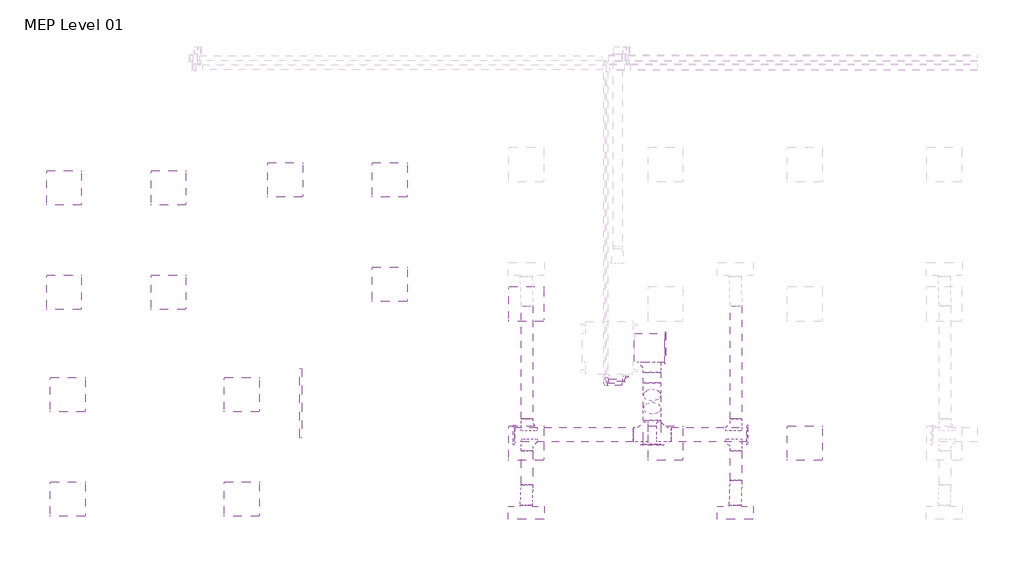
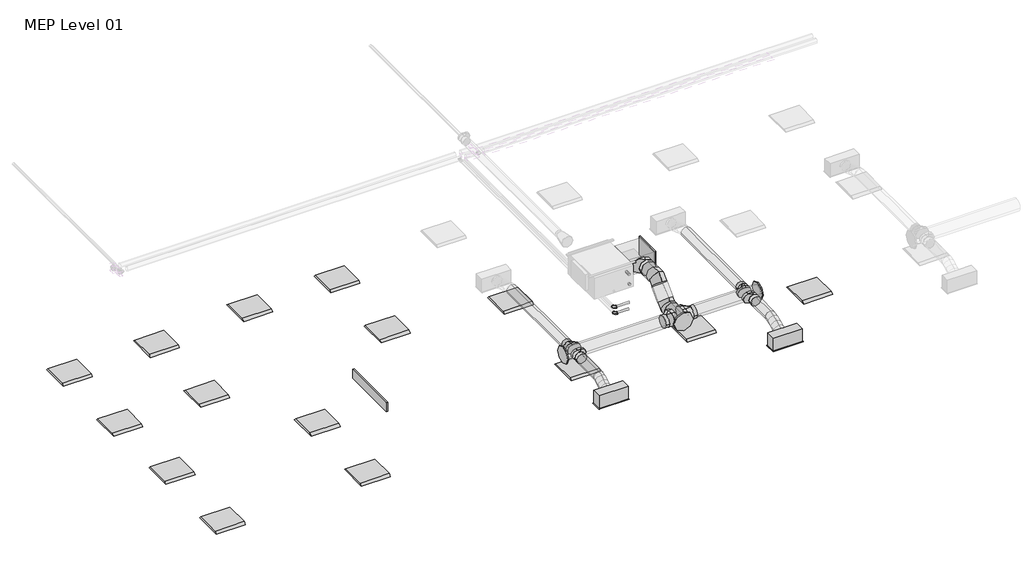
# One storey, part 1 of 29: 16 light fixtures, 13 duct fittings, 12 duct segments, 4 pipe segments, 2 air terminals, 2 pipe fittings.
"""IFC4 building model written with IfcOpenShell, lengths in millimetres."""

from ifc_helpers import new_model, si_unit, point, frame, frame_2d, origin, place, context, project, spatial, polyline, circle_curve, ellipse_curve, trimmed, segment, composite_curve, outline, extrude, transform, mapped, element, save
from ifc_brep_helpers import plane_surface, cylinder_surface, advanced_brep
from components import supply_diffuser_with_plenum_linear_slot_hosted_8c379eed, dw144_rectangular_blank_end_standard_8fde7d16, dw144_round_blank_end_standard_f82b0856, dw144_round_blank_end_standard_9aa061e7, dw144_round_segmented_bend_slip_joint_standard_8b80c5ae, dw144_round_shoe_branch_slip_joint_standard_15a2edd8, dw144_round_shoe_branch_slip_joint_standard_559552f4, dw144_round_shoe_branch_slip_joint_standard_7ba9e4ed, dw144_round_shoe_branch_slip_joint_standard_67b64720, light_fixture_600x600_230_1c7c1157, light_fixture_600x600_230_b730b5ca, plain_surface_lighting_fixture_200x1200_230_64c2163c, elbow_threaded_gmi_standard_b4aa7741

model = new_model("IFC4")

# Units and contexts
model_context = context("Model", 3, world=origin())
ifc_project = project(units=[si_unit("LENGTHUNIT", "METRE", prefix="MILLI")], contexts=[model_context])

# Site, building, storey
site = spatial("IfcSite", under=ifc_project)
building = spatial("IfcBuilding", under=site)
storey = spatial("IfcBuildingStorey", under=building, Name="MEP Level 01", Elevation=3900.0)

# Air terminals
placement = place(None, origin())
supply_diffuser_with_plenum_linear_slot_hosted_shape = supply_diffuser_with_plenum_linear_slot_hosted_8c379eed(model_context)
element("IfcAirTerminal", 1, ObjectType="Supply Diffuser with Plenum - Linear Slot - Hosted : 600mmx193.8mm-200 In Inlet  4-Slot", at=placement, inside=storey, context=model_context, shape_type="MappedRepresentation", body=[
    mapped(supply_diffuser_with_plenum_linear_slot_hosted_shape, transform((9162.2000027, 963.2000004, 6700.0), x_axis=(1.0, 0.0, 0.0), y_axis=(0.0, -1.0, 0.0), z_axis=(0.0, 0.0, -1.0))),
])
element("IfcAirTerminal", 2, ObjectType="Supply Diffuser with Plenum - Linear Slot - Hosted : 600mmx193.8mm-200 In Inlet  4-Slot", at=placement, inside=storey, context=model_context, shape_type="MappedRepresentation", body=[
    mapped(supply_diffuser_with_plenum_linear_slot_hosted_shape, transform((12762.2000027, 963.2000004, 6700.0), x_axis=(1.0, 0.0, 0.0), y_axis=(0.0, -1.0, 0.0), z_axis=(0.0, 0.0, -1.0))),
])

# Duct fittings
dw144_rectangular_blank_end_standard_shape = dw144_rectangular_blank_end_standard_8fde7d16(model_context)
element("IfcDuctFitting", 3, ObjectType="DW144 Rectangular Blank End : Standard", at=placement, inside=storey, context=model_context, shape_type="MappedRepresentation", body=[
    mapped(dw144_rectangular_blank_end_standard_shape, transform((11546.2561025, 3806.0000004, 7376.3911538), x_axis=(1.0, 0.0, 0.0), y_axis=(0.0, 1.0, 0.0), z_axis=(0.0, 0.0, 1.0))),
])
dw144_round_blank_end_standard_shape = dw144_round_blank_end_standard_f82b0856(model_context)
element("IfcDuctFitting", 4, ObjectType="DW144 Round Blank End : Standard", at=placement, inside=storey, context=model_context, shape_type="MappedRepresentation", body=[
    mapped(dw144_round_blank_end_standard_shape, transform((11331.4561025, 2142.9916128, 6972.2088531), x_axis=(0.0, -1.0, 0.0), y_axis=(1.0, 0.0, 0.0), z_axis=(0.0, 0.0, 1.0))),
])
dw144_round_blank_end_standard_2_shape = dw144_round_blank_end_standard_9aa061e7(model_context)
element("IfcDuctFitting", 5, ObjectType="DW144 Round Blank End : Standard", at=placement, inside=storey, context=model_context, shape_type="MappedRepresentation", body=[
    mapped(dw144_round_blank_end_standard_2_shape, transform((12961.4561025, 2306.5018192, 6972.2088531), x_axis=(1.0, 0.0, 0.0), y_axis=(0.0, 1.0, 0.0), z_axis=(0.0, 0.0, 1.0))),
])
element("IfcDuctFitting", 6, ObjectType="DW144 Round Blank End : Standard", at=placement, inside=storey, context=model_context, shape_type="MappedRepresentation", body=[
    mapped(dw144_round_blank_end_standard_2_shape, transform((8961.4561025, 2306.5018192, 6972.2088531), x_axis=(-1.0, 0.0, 0.0), y_axis=(0.0, -1.0, 0.0), z_axis=(0.0, 0.0, 1.0))),
])
dw144_round_segmented_bend_slip_joint_standard_shape = dw144_round_segmented_bend_slip_joint_standard_8b80c5ae(model_context)
element("IfcDuctFitting", 7, ObjectType="DW144 Round Segmented Bend - Slip Joint : Standard", at=placement, inside=storey, context=model_context, shape_type="MappedRepresentation", body=[
    mapped(dw144_round_segmented_bend_slip_joint_standard_shape, transform((11331.4561025, 2678.6338536, 6972.2088531), x_axis=(0.0, -0.7071067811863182, -0.7071067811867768), y_axis=(0.0, 0.7071067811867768, -0.7071067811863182), z_axis=(1.0, 0.0, 0.0))),
])
element("IfcDuctFitting", 8, ObjectType="DW144 Round Segmented Bend - Slip Joint : Standard", at=placement, inside=storey, context=model_context, shape_type="MappedRepresentation", body=[
    mapped(dw144_round_segmented_bend_slip_joint_standard_shape, transform((11331.4561025, 3076.0000004, 7369.575), x_axis=(0.0, -1.0, 0.0), y_axis=(0.0, 0.0, 1.0), z_axis=(-1.0, 0.0, 0.0))),
])
dw144_round_shoe_branch_slip_joint_standard_shape = dw144_round_shoe_branch_slip_joint_standard_15a2edd8(model_context)
element("IfcDuctFitting", 9, ObjectType="DW144 Round Shoe Branch - Slip Joint : Standard", at=placement, inside=storey, context=model_context, shape_type="MappedRepresentation", body=[
    mapped(dw144_round_shoe_branch_slip_joint_standard_shape, transform((9173.9000022, 2181.5018192, 6972.2088531), x_axis=(0.0, -1.0, 0.0), y_axis=(-1.0, 0.0, 0.0), z_axis=(0.0, 0.0, -1.0))),
])
element("IfcDuctFitting", 10, ObjectType="DW144 Round Shoe Branch - Slip Joint : Standard", at=placement, inside=storey, context=model_context, shape_type="MappedRepresentation", body=[
    mapped(dw144_round_shoe_branch_slip_joint_standard_shape, transform((9173.9000022, 2431.5018192, 6972.2088531), x_axis=(0.0, 1.0, 0.0), y_axis=(-1.0, 0.0, 0.0), z_axis=(0.0, 0.0, 1.0))),
])
dw144_round_shoe_branch_slip_joint_standard_2_shape = dw144_round_shoe_branch_slip_joint_standard_559552f4(model_context)
element("IfcDuctFitting", 11, ObjectType="DW144 Round Shoe Branch - Slip Joint : Standard", at=placement, inside=storey, context=model_context, shape_type="MappedRepresentation", body=[
    mapped(dw144_round_shoe_branch_slip_joint_standard_2_shape, transform((12773.9000022, 2181.5018192, 6972.2088531), x_axis=(0.0, -1.0, 0.0), y_axis=(-1.0, 0.0, 0.0), z_axis=(0.0, 0.0, -1.0))),
])
element("IfcDuctFitting", 12, ObjectType="DW144 Round Shoe Branch - Slip Joint : Standard", at=placement, inside=storey, context=model_context, shape_type="MappedRepresentation", body=[
    mapped(dw144_round_shoe_branch_slip_joint_standard_2_shape, transform((12773.9000022, 2431.5018192, 6972.2088531), x_axis=(0.0, 1.0, 0.0), y_axis=(-1.0, 0.0, 0.0), z_axis=(0.0, 0.0, 1.0))),
])
dw144_round_shoe_branch_slip_joint_standard_3_shape = dw144_round_shoe_branch_slip_joint_standard_7ba9e4ed(model_context)
element("IfcDuctFitting", 13, ObjectType="DW144 Round Shoe Branch - Slip Joint : Standard", at=placement, inside=storey, context=model_context, shape_type="MappedRepresentation", body=[
    mapped(dw144_round_shoe_branch_slip_joint_standard_3_shape, transform((11331.4561025, 3556.0000004, 7369.575), x_axis=(0.0, -1.0, 0.0), y_axis=(-1.0, 0.0, 0.0), z_axis=(0.0, 0.0, -1.0))),
])
dw144_round_shoe_branch_slip_joint_standard_4_shape = dw144_round_shoe_branch_slip_joint_standard_67b64720(model_context)
element("IfcDuctFitting", 14, ObjectType="DW144 Round Shoe Branch - Slip Joint : Standard", at=placement, inside=storey, context=model_context, shape_type="MappedRepresentation", body=[
    mapped(dw144_round_shoe_branch_slip_joint_standard_4_shape, transform((11481.4561025, 2306.5018192, 6972.2088531), x_axis=(1.0, 0.0, 0.0), y_axis=(0.0, -1.0, 0.0), z_axis=(0.0, 0.0, -1.0))),
])
element("IfcDuctFitting", 15, ObjectType="DW144 Round Shoe Branch - Slip Joint : Standard", at=placement, inside=storey, context=model_context, shape_type="MappedRepresentation", body=[
    mapped(dw144_round_shoe_branch_slip_joint_standard_4_shape, transform((11181.4561025, 2306.5018192, 6972.2088531), x_axis=(-1.0, 0.0, 0.0), y_axis=(0.0, -1.0, 0.0), z_axis=(0.0, 0.0, 1.0))),
])

# Duct segments
element("IfcDuctSegment", 16, ObjectType="DW144 Flanged Med Radius Bend / Shoe Branch", at=placement, inside=storey, context=model_context, shape_type="SweptSolid", body=[
    extrude(outline(polyline([(11026.6561025, 3556.0000004), (11026.6561025, 4056.0000004), (11546.2561025, 4056.0000004), (11546.2561025, 3556.0000004), (11026.6561025, 3556.0000004)])), frame((0.0, 0.0, 7201.3911538), z_axis=(0.0, 0.0, 1.0), x_axis=(1.0, 0.0, 0.0)), (0.0, 0.0, 1.0), 350.0),
])
element("IfcDuctSegment", 17, ObjectType="DW144 Segmented Bend / Shoe Branch", at=placement, inside=storey, context=model_context, shape_type="SweptSolid", body=[
    extrude(outline(composite_curve([segment(trimmed(circle_curve(frame_2d((7369.575, 11331.4561025)), 150.0), [point((7369.575, 11181.4561025))], [point((7219.575, 11331.4561025))], False, "CARTESIAN"), True, "CONTINUOUS"), segment(trimmed(circle_curve(frame_2d((7369.575, 11331.4561025)), 150.0), [point((7219.575, 11331.4561025))], [point((7369.575, 11481.4561025))], False, "CARTESIAN"), True, "CONTINUOUS"), segment(trimmed(circle_curve(frame_2d((7369.575, 11331.4561025)), 150.0), [point((7369.575, 11481.4561025))], [point((7519.575, 11331.4561025))], False, "CARTESIAN"), True, "CONTINUOUS"), segment(trimmed(circle_curve(frame_2d((7369.575, 11331.4561025)), 150.0), [point((7519.575, 11331.4561025))], [point((7369.575, 11181.4561025))], False, "CARTESIAN"), True, "CONTINUOUS")], self_intersect=False)), frame((0.0, 3200.2640691, 0.0), z_axis=(0.0, 1.0, 0.0), x_axis=(0.0, 0.0, 1.0)), (0.0, 0.0, 1.0), 180.7359313),
])
element("IfcDuctSegment", 18, ObjectType="DW144 Segmented Bend / Shoe Branch", at=placement, inside=storey, context=model_context, shape_type="SweptSolid", body=[
    extrude(outline(composite_curve([segment(trimmed(circle_curve(frame_2d((6972.2088531, 11331.4561025)), 150.0), [point((6972.2088531, 11181.4561025))], [point((6822.2088531, 11331.4561025))], False, "CARTESIAN"), True, "CONTINUOUS"), segment(trimmed(circle_curve(frame_2d((6972.2088531, 11331.4561025)), 150.0), [point((6822.2088531, 11331.4561025))], [point((6972.2088531, 11481.4561025))], False, "CARTESIAN"), True, "CONTINUOUS"), segment(trimmed(circle_curve(frame_2d((6972.2088531, 11331.4561025)), 150.0), [point((6972.2088531, 11481.4561025))], [point((7122.2088531, 11331.4561025))], False, "CARTESIAN"), True, "CONTINUOUS"), segment(trimmed(circle_curve(frame_2d((6972.2088531, 11331.4561025)), 150.0), [point((7122.2088531, 11331.4561025))], [point((6972.2088531, 11181.4561025))], False, "CARTESIAN"), True, "CONTINUOUS")], self_intersect=False)), frame((0.0, 2142.9916128, 0.0), z_axis=(0.0, 1.0, 0.0), x_axis=(0.0, 0.0, 1.0)), (0.0, 0.0, 1.0), 411.3781721),
])
element("IfcDuctSegment", 19, ObjectType="DW144 Segmented Bend / Shoe Branch", at=placement, inside=storey, context=model_context, shape_type="SweptSolid", body=[
    extrude(outline(composite_curve([segment(trimmed(circle_curve(frame_2d((0.0, -150.0)), 150.0), [point((-150.0, -150.0))], [point((0.0, 0.0))], False, "CARTESIAN"), True, "CONTINUOUS"), segment(trimmed(circle_curve(frame_2d((0.0, -150.0)), 150.0), [point((0.0, 0.0))], [point((150.0, -150.0))], False, "CARTESIAN"), True, "CONTINUOUS"), segment(trimmed(circle_curve(frame_2d((0.0, -150.0)), 150.0), [point((150.0, -150.0))], [point((0.0, -300.0))], False, "CARTESIAN"), True, "CONTINUOUS"), segment(trimmed(circle_curve(frame_2d((0.0, -150.0)), 150.0), [point((0.0, -300.0))], [point((-150.0, -150.0))], False, "CARTESIAN"), True, "CONTINUOUS")], self_intersect=False)), frame((11331.4561025, 2872.5678364, 6954.0108016), z_axis=(0.0, 0.7071067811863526, 0.7071067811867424), x_axis=(1.0, 0.0, 0.0)), (0.0, 0.0, 1.0), 313.4324567),
])
element("IfcDuctSegment", 20, ObjectType="DW144 Segmented Bend / Shoe Branch", at=placement, inside=storey, context=model_context, shape_type="SweptSolid", body=[
    extrude(outline(composite_curve([segment(trimmed(circle_curve(frame_2d((2306.5018192, 6972.2088531)), 125.0), [point((2181.5018192, 6972.2088531))], [point((2306.5018192, 7097.2088531))], False, "CARTESIAN"), True, "CONTINUOUS"), segment(trimmed(circle_curve(frame_2d((2306.5018192, 6972.2088531)), 125.0), [point((2306.5018192, 7097.2088531))], [point((2431.5018192, 6972.2088531))], False, "CARTESIAN"), True, "CONTINUOUS"), segment(trimmed(circle_curve(frame_2d((2306.5018192, 6972.2088531)), 125.0), [point((2431.5018192, 6972.2088531))], [point((2306.5018192, 6847.2088531))], False, "CARTESIAN"), True, "CONTINUOUS"), segment(trimmed(circle_curve(frame_2d((2306.5018192, 6972.2088531)), 125.0), [point((2306.5018192, 6847.2088531))], [point((2181.5018192, 6972.2088531))], False, "CARTESIAN"), True, "CONTINUOUS")], self_intersect=False)), frame((11656.4561025, 0.0, 0.0), z_axis=(1.0, 0.0, 0.0), x_axis=(0.0, 1.0, 0.0)), (0.0, 0.0, 1.0), 1305.0),
])
element("IfcDuctSegment", 21, ObjectType="DW144 Segmented Bend / Shoe Branch", at=placement, inside=storey, context=model_context, shape_type="SweptSolid", body=[
    extrude(outline(composite_curve([segment(trimmed(circle_curve(frame_2d((2306.5018192, 6972.2088531)), 125.0), [point((2431.5018192, 6972.2088531))], [point((2306.5018192, 6847.2088531))], False, "CARTESIAN"), True, "CONTINUOUS"), segment(trimmed(circle_curve(frame_2d((2306.5018192, 6972.2088531)), 125.0), [point((2306.5018192, 6847.2088531))], [point((2181.5018192, 6972.2088531))], False, "CARTESIAN"), True, "CONTINUOUS"), segment(trimmed(circle_curve(frame_2d((2306.5018192, 6972.2088531)), 125.0), [point((2181.5018192, 6972.2088531))], [point((2306.5018192, 7097.2088531))], False, "CARTESIAN"), True, "CONTINUOUS"), segment(trimmed(circle_curve(frame_2d((2306.5018192, 6972.2088531)), 125.0), [point((2306.5018192, 7097.2088531))], [point((2431.5018192, 6972.2088531))], False, "CARTESIAN"), True, "CONTINUOUS")], self_intersect=False)), frame((8961.4561025, 0.0, 0.0), z_axis=(1.0, 0.0, 0.0), x_axis=(0.0, 1.0, 0.0)), (0.0, 0.0, 1.0), 2045.0),
])
element("IfcDuctSegment", 22, ObjectType="DW144 Segmented Bend / Shoe Branch", at=placement, inside=storey, context=model_context, shape_type="SweptSolid", body=[
    extrude(outline(composite_curve([segment(trimmed(circle_curve(frame_2d((6972.2088531, 12773.9000022)), 100.0), [point((6972.2088531, 12673.9000022))], [point((6872.2088531, 12773.9000022))], False, "CARTESIAN"), True, "CONTINUOUS"), segment(trimmed(circle_curve(frame_2d((6972.2088531, 12773.9000022)), 100.0), [point((6872.2088531, 12773.9000022))], [point((6972.2088531, 12873.9000022))], False, "CARTESIAN"), True, "CONTINUOUS"), segment(trimmed(circle_curve(frame_2d((6972.2088531, 12773.9000022)), 100.0), [point((6972.2088531, 12873.9000022))], [point((7072.2088531, 12773.9000022))], False, "CARTESIAN"), True, "CONTINUOUS"), segment(trimmed(circle_curve(frame_2d((6972.2088531, 12773.9000022)), 100.0), [point((7072.2088531, 12773.9000022))], [point((6972.2088531, 12673.9000022))], False, "CARTESIAN"), True, "CONTINUOUS")], self_intersect=False)), frame((0.0, 1521.5018192, 0.0), z_axis=(0.0, 1.0, 0.0), x_axis=(0.0, 0.0, 1.0)), (0.0, 0.0, 1.0), 510.0),
])
element("IfcDuctSegment", 23, ObjectType="DW144 Segmented Bend / Shoe Branch", at=placement, inside=storey, context=model_context, shape_type="SweptSolid", body=[
    extrude(outline(composite_curve([segment(trimmed(circle_curve(frame_2d((6972.2088531, 12773.9000022)), 100.0), [point((6972.2088531, 12873.9000022))], [point((7072.2088531, 12773.9000022))], False, "CARTESIAN"), True, "CONTINUOUS"), segment(trimmed(circle_curve(frame_2d((6972.2088531, 12773.9000022)), 100.0), [point((7072.2088531, 12773.9000022))], [point((6972.2088531, 12673.9000022))], False, "CARTESIAN"), True, "CONTINUOUS"), segment(trimmed(circle_curve(frame_2d((6972.2088531, 12773.9000022)), 100.0), [point((6972.2088531, 12673.9000022))], [point((6872.2088531, 12773.9000022))], False, "CARTESIAN"), True, "CONTINUOUS"), segment(trimmed(circle_curve(frame_2d((6972.2088531, 12773.9000022)), 100.0), [point((6872.2088531, 12773.9000022))], [point((6972.2088531, 12873.9000022))], False, "CARTESIAN"), True, "CONTINUOUS")], self_intersect=False)), frame((0.0, 2581.5018192, 0.0), z_axis=(0.0, 1.0, 0.0), x_axis=(0.0, 0.0, 1.0)), (0.0, 0.0, 1.0), 1950.0),
])
element("IfcDuctSegment", 24, ObjectType="DW144 Segmented Bend / Shoe Branch", at=placement, inside=storey, context=model_context, shape_type="SweptSolid", body=[
    extrude(outline(composite_curve([segment(trimmed(circle_curve(frame_2d((6972.2088531, 9173.9000022)), 100.0), [point((6972.2088531, 9273.9000022))], [point((7072.2088531, 9173.9000022))], False, "CARTESIAN"), True, "CONTINUOUS"), segment(trimmed(circle_curve(frame_2d((6972.2088531, 9173.9000022)), 100.0), [point((7072.2088531, 9173.9000022))], [point((6972.2088531, 9073.9000022))], False, "CARTESIAN"), True, "CONTINUOUS"), segment(trimmed(circle_curve(frame_2d((6972.2088531, 9173.9000022)), 100.0), [point((6972.2088531, 9073.9000022))], [point((6872.2088531, 9173.9000022))], False, "CARTESIAN"), True, "CONTINUOUS"), segment(trimmed(circle_curve(frame_2d((6972.2088531, 9173.9000022)), 100.0), [point((6872.2088531, 9173.9000022))], [point((6972.2088531, 9273.9000022))], False, "CARTESIAN"), True, "CONTINUOUS")], self_intersect=False)), frame((0.0, 1441.5018192, 0.0), z_axis=(0.0, 1.0, 0.0), x_axis=(0.0, 0.0, 1.0)), (0.0, 0.0, 1.0), 590.0),
])
element("IfcDuctSegment", 25, ObjectType="DW144 Segmented Bend / Shoe Branch", at=placement, inside=storey, context=model_context, shape_type="SweptSolid", body=[
    extrude(outline(composite_curve([segment(trimmed(circle_curve(frame_2d((6972.2088531, 9173.9000022)), 100.0), [point((6972.2088531, 9273.9000022))], [point((7072.2088531, 9173.9000022))], False, "CARTESIAN"), True, "CONTINUOUS"), segment(trimmed(circle_curve(frame_2d((6972.2088531, 9173.9000022)), 100.0), [point((7072.2088531, 9173.9000022))], [point((6972.2088531, 9073.9000022))], False, "CARTESIAN"), True, "CONTINUOUS"), segment(trimmed(circle_curve(frame_2d((6972.2088531, 9173.9000022)), 100.0), [point((6972.2088531, 9073.9000022))], [point((6872.2088531, 9173.9000022))], False, "CARTESIAN"), True, "CONTINUOUS"), segment(trimmed(circle_curve(frame_2d((6972.2088531, 9173.9000022)), 100.0), [point((6872.2088531, 9173.9000022))], [point((6972.2088531, 9273.9000022))], False, "CARTESIAN"), True, "CONTINUOUS")], self_intersect=False)), frame((0.0, 2581.5018192, 0.0), z_axis=(0.0, 1.0, 0.0), x_axis=(0.0, 0.0, 1.0)), (0.0, 0.0, 1.0), 1950.0),
])
element("IfcDuctSegment", 26, ObjectType="Flex - Round", at=placement, inside=storey, context=model_context, shape_type="AdvancedBrep", body=[
    advanced_brep(
    [(9273.9000022, 1441.5018192, 6972.2088531), (9173.9000022, 1441.5018192, 6872.2088531), (9073.9000022, 1441.5018192, 6972.2088531), (9173.9000022, 1441.5018192, 7072.2088531), (9273.9000022, 1419.9886644, 6972.2088531), (9173.9000022, 1434.4041273, 6872.2088531), (9073.9000022, 1422.5932881, 6972.2088531), (9173.9000022, 1408.1778252, 7072.2088531), (9262.2000027, 1092.1000004, 6854.4), (9162.2000027, 1092.1000004, 6954.4), (9062.2000027, 1092.1000004, 6854.4), (9162.2000027, 1092.1000004, 6754.4), (9272.0154345, 1348.8904029, 6953.2328893), (9172.6402079, 1386.8764181, 6859.5238159), (9072.1283201, 1355.7538157, 6954.3695504), (9171.5035467, 1317.7678004, 7048.0786237), (9267.9552415, 1262.5544078, 6912.3502664), (9169.0041626, 1309.5595036, 6822.9119919), (9068.1447633, 1271.0474118, 6914.2585867), (9167.0958423, 1224.0423161, 7003.6968612), (9263.9716847, 1177.8480039, 6872.2393027), (9164.5964582, 1215.8340192, 6778.5302294), (9064.0845704, 1184.7114168, 6873.3759639), (9163.459797, 1146.7254015, 6967.0850372), (9262.2000027, 1111.0085316, 6854.4), (9162.2000027, 1125.4239944, 6754.4), (9062.2000027, 1113.6131552, 6854.4), (9162.2000027, 1099.1976924, 6954.4)],
    [
        (0, 1, circle_curve(frame((9173.9000022, 1441.5018192, 6972.2088531), z_axis=(0.0, 1.0, 0.0), x_axis=(1.0, 0.0, 0.0)), 100.0)),
        (1, 2, circle_curve(frame((9173.9000022, 1441.5018192, 6972.2088531), z_axis=(0.0, 1.0, 0.0), x_axis=(1.0, 0.0, 0.0)), 100.0)),
        (2, 3, circle_curve(frame((9173.9000022, 1441.5018192, 6972.2088531), z_axis=(0.0, 1.0, 0.0), x_axis=(1.0, 0.0, 0.0)), 100.0)),
        (3, 0, circle_curve(frame((9173.9000022, 1441.5018192, 6972.2088531), z_axis=(0.0, 1.0, 0.0), x_axis=(1.0, 0.0, 0.0)), 100.0)),
        (0, 4),
        (4, 5, ellipse_curve(frame((9173.9000022, 1421.2909763, 6972.2088531), z_axis=(0.012911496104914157, 0.9914289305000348, 0.13000757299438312), x_axis=(-0.0979801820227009, 0.13064714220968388, -0.9865754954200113)), 100.8645168, 100.0)),
        (5, 1),
        (5, 6, ellipse_curve(frame((9173.9000022, 1421.2909763, 6972.2088531), z_axis=(0.012911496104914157, 0.9914289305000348, 0.13000757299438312), x_axis=(-0.0979801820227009, 0.13064714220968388, -0.9865754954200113)), 100.8645168, 100.0)),
        (6, 2),
        (6, 7, ellipse_curve(frame((9173.9000022, 1421.2909763, 6972.2088531), z_axis=(0.012911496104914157, 0.9914289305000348, 0.13000757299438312), x_axis=(-0.0979801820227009, 0.13064714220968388, -0.9865754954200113)), 100.8645168, 100.0)),
        (7, 3),
        (7, 4, ellipse_curve(frame((9173.9000022, 1421.2909763, 6972.2088531), z_axis=(0.012911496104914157, 0.9914289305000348, 0.13000757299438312), x_axis=(-0.0979801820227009, 0.13064714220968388, -0.9865754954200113)), 100.8645168, 100.0)),
        (8, 9, circle_curve(frame((9162.2000027, 1092.1000004, 6854.4), z_axis=(0.0, -1.0, 0.0), x_axis=(1.0, 0.0, 0.0)), 100.0)),
        (9, 10, circle_curve(frame((9162.2000027, 1092.1000004, 6854.4), z_axis=(0.0, -1.0, 0.0), x_axis=(1.0, 0.0, 0.0)), 100.0)),
        (10, 11, circle_curve(frame((9162.2000027, 1092.1000004, 6854.4), z_axis=(0.0, -1.0, 0.0), x_axis=(1.0, 0.0, 0.0)), 100.0)),
        (11, 8, circle_curve(frame((9162.2000027, 1092.1000004, 6854.4), z_axis=(0.0, -1.0, 0.0), x_axis=(1.0, 0.0, 0.0)), 100.0)),
        (4, 12),
        (12, 13, ellipse_curve(frame((9172.0718773, 1352.3221093, 6953.8012198), z_axis=(0.034174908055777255, 0.9383065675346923, 0.3441116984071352), x_axis=(-0.09273024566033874, 0.3458045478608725, -0.9337131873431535)), 100.4159667, 100.0)),
        (13, 5),
        (13, 14, ellipse_curve(frame((9172.0718773, 1352.3221093, 6953.8012198), z_axis=(0.034174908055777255, 0.9383065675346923, 0.3441116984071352), x_axis=(-0.09273024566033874, 0.3458045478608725, -0.9337131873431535)), 100.4159667, 100.0)),
        (14, 6),
        (14, 15, ellipse_curve(frame((9172.0718773, 1352.3221093, 6953.8012198), z_axis=(0.034174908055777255, 0.9383065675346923, 0.3441116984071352), x_axis=(-0.09273024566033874, 0.3458045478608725, -0.9337131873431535)), 100.4159667, 100.0)),
        (15, 7),
        (15, 12, ellipse_curve(frame((9172.0718773, 1352.3221093, 6953.8012198), z_axis=(0.034174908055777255, 0.9383065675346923, 0.3441116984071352), x_axis=(-0.09273024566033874, 0.3458045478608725, -0.9337131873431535)), 100.4159667, 100.0)),
        (12, 16),
        (16, 17, circle_curve(frame((9168.0500024, 1266.8009098, 6913.3044266), z_axis=(0.04246501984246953, 0.9029767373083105, 0.4275859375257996), x_axis=(0.9990523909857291, -0.042465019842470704, -0.009541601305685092)), 100.0)),
        (17, 13),
        (17, 18, circle_curve(frame((9168.0500024, 1266.8009098, 6913.3044266), z_axis=(0.04246501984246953, 0.9029767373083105, 0.4275859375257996), x_axis=(0.9990523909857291, -0.042465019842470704, -0.009541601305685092)), 100.0)),
        (18, 14),
        (18, 19, circle_curve(frame((9168.0500024, 1266.8009098, 6913.3044266), z_axis=(0.04246501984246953, 0.9029767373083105, 0.4275859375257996), x_axis=(0.9990523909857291, -0.042465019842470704, -0.009541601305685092)), 100.0)),
        (19, 15),
        (19, 16, circle_curve(frame((9168.0500024, 1266.8009098, 6913.3044266), z_axis=(0.04246501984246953, 0.9029767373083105, 0.4275859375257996), x_axis=(0.9990523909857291, -0.042465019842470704, -0.009541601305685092)), 100.0)),
        (16, 20),
        (20, 21, ellipse_curve(frame((9164.0281276, 1181.2797104, 6872.8076333), z_axis=(0.03417490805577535, 0.9383065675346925, 0.3441116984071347), x_axis=(0.0927302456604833, -0.3458045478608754, 0.9337131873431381)), 100.4159667, 100.0)),
        (21, 17),
        (21, 22, ellipse_curve(frame((9164.0281276, 1181.2797104, 6872.8076333), z_axis=(0.03417490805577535, 0.9383065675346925, 0.3441116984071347), x_axis=(0.0927302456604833, -0.3458045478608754, 0.9337131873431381)), 100.4159667, 100.0)),
        (22, 18),
        (22, 23, ellipse_curve(frame((9164.0281276, 1181.2797104, 6872.8076333), z_axis=(0.03417490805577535, 0.9383065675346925, 0.3441116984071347), x_axis=(0.0927302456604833, -0.3458045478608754, 0.9337131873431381)), 100.4159667, 100.0)),
        (23, 19),
        (23, 20, ellipse_curve(frame((9164.0281276, 1181.2797104, 6872.8076333), z_axis=(0.03417490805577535, 0.9383065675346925, 0.3441116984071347), x_axis=(0.0927302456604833, -0.3458045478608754, 0.9337131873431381)), 100.4159667, 100.0)),
        (20, 24),
        (24, 25, ellipse_curve(frame((9162.2000027, 1112.3108434, 6854.4), z_axis=(0.012911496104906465, 0.9914289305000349, 0.1300075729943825), x_axis=(0.09798018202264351, -0.13064714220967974, 0.9865754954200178)), 100.8645168, 100.0)),
        (25, 21),
        (25, 26, ellipse_curve(frame((9162.2000027, 1112.3108434, 6854.4), z_axis=(0.012911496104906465, 0.9914289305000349, 0.1300075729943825), x_axis=(0.09798018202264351, -0.13064714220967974, 0.9865754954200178)), 100.8645168, 100.0)),
        (26, 22),
        (26, 27, ellipse_curve(frame((9162.2000027, 1112.3108434, 6854.4), z_axis=(0.012911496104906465, 0.9914289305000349, 0.1300075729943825), x_axis=(0.09798018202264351, -0.13064714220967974, 0.9865754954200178)), 100.8645168, 100.0)),
        (27, 23),
        (27, 24, ellipse_curve(frame((9162.2000027, 1112.3108434, 6854.4), z_axis=(0.012911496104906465, 0.9914289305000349, 0.1300075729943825), x_axis=(0.09798018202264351, -0.13064714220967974, 0.9865754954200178)), 100.8645168, 100.0)),
        (24, 8),
        (11, 25),
        (10, 26),
        (9, 27),
    ],
    [
        plane_surface(frame((9073.9000022, 1441.5018192, 6972.2088531), z_axis=(0.0, 1.0, 0.0), x_axis=(0.0, 0.0, -1.0))),
        cylinder_surface(frame((9173.9000022, 1441.5018192, 6972.2088531), z_axis=(0.0, 1.0, 0.0), x_axis=(1.0, 0.0, 0.0)), 100.0),
        plane_surface(frame((9062.2000027, 1092.1000004, 6854.4), z_axis=(0.0, -1.0, 0.0), x_axis=(0.0, 0.0, -1.0))),
        cylinder_surface(frame((9173.9000022, 1421.2909763, 6972.2088531), z_axis=(0.02560166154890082, 0.965862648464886, 0.25778653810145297), x_axis=(0.9996665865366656, -0.02560166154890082, -0.003357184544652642)), 100.0),
        cylinder_surface(frame((9172.0718773, 1352.3221093, 6953.8012198), z_axis=(0.04246501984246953, 0.9029767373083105, 0.4275859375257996), x_axis=(0.9990523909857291, -0.042465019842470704, -0.009541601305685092)), 100.0),
        cylinder_surface(frame((9168.0500024, 1266.8009098, 6913.3044266), z_axis=(0.04246501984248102, 0.90297673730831, 0.42758593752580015), x_axis=(0.9990523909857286, -0.04246501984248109, -0.009541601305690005)), 100.0),
        cylinder_surface(frame((9164.0281276, 1181.2797104, 6872.8076333), z_axis=(0.025601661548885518, 0.9658626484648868, 0.2577865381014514), x_axis=(0.999666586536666, -0.02560166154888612, -0.003357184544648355)), 100.0),
        cylinder_surface(frame((9162.2000027, 1112.3108434, 6854.4), z_axis=(0.0, 1.0, 0.0), x_axis=(1.0, 0.0, 0.0)), 100.0),
    ],
    [
        (0, [[1, 2, 3, 4]]),
        (1, [[-1, 5, 6, 7]]),
        (1, [[-2, -7, 8, 9]]),
        (1, [[-3, -9, 10, 11]]),
        (1, [[-4, -11, 12, -5]]),
        (2, [[13, 14, 15, 16]]),
        (3, [[-6, 17, 18, 19]]),
        (3, [[-8, -19, 20, 21]]),
        (3, [[-10, -21, 22, 23]]),
        (3, [[-12, -23, 24, -17]]),
        (4, [[-18, 25, 26, 27]]),
        (4, [[-20, -27, 28, 29]]),
        (4, [[-22, -29, 30, 31]]),
        (4, [[-24, -31, 32, -25]]),
        (5, [[-26, 33, 34, 35]]),
        (5, [[-28, -35, 36, 37]]),
        (5, [[-30, -37, 38, 39]]),
        (5, [[-32, -39, 40, -33]]),
        (6, [[-34, 41, 42, 43]]),
        (6, [[-36, -43, 44, 45]]),
        (6, [[-38, -45, 46, 47]]),
        (6, [[-40, -47, 48, -41]]),
        (7, [[-42, 49, -16, 50]]),
        (7, [[-44, -50, -15, 51]]),
        (7, [[-46, -51, -14, 52]]),
        (7, [[-48, -52, -13, -49]]),
    ],
),
])
element("IfcDuctSegment", 27, ObjectType="Flex - Round", at=placement, inside=storey, context=model_context, shape_type="AdvancedBrep", body=[
    advanced_brep(
    [(12873.9000022, 1521.5018192, 6972.2088531), (12773.9000022, 1521.5018192, 6872.2088531), (12673.9000022, 1521.5018192, 6972.2088531), (12773.9000022, 1521.5018192, 7072.2088531), (12873.9000022, 1503.8483968, 6972.2088531), (12773.9000022, 1514.716186, 6872.2088531), (12673.9000022, 1505.8120174, 6972.2088531), (12773.9000022, 1494.9442282, 7072.2088531), (12862.2000027, 1092.1000004, 6854.4), (12762.2000027, 1092.1000004, 6954.4), (12662.2000027, 1092.1000004, 6854.4), (12762.2000027, 1092.1000004, 6754.4), (12872.0365094, 1409.8841765, 6953.4450953), (12772.4280018, 1440.492465, 6857.3870846), (12672.1072452, 1415.4145623, 6954.1573443), (12771.7157528, 1384.8062738, 7050.2153551), (12867.9849454, 1303.2543522, 6912.6493581), (12768.7050709, 1342.5116705, 6819.9003985), (12668.1150595, 1310.3474674, 6913.9594951), (12767.3949339, 1271.0901491, 7006.7084546), (12863.9927597, 1198.1872573, 6872.4515088), (12764.3842521, 1228.7955458, 6776.3934981), (12664.0634955, 1203.7176431, 6873.1637578), (12763.6720031, 1173.1093547, 6969.2217685), (12862.2000027, 1107.7898022, 6854.4), (12762.2000027, 1118.6575914, 6754.4), (12662.2000027, 1109.7534229, 6854.4), (12762.2000027, 1098.8856336, 6954.4)],
    [
        (0, 1, circle_curve(frame((12773.9000022, 1521.5018192, 6972.2088531), z_axis=(0.0, 1.0, 0.0), x_axis=(1.0, 0.0, 0.0)), 100.0)),
        (1, 2, circle_curve(frame((12773.9000022, 1521.5018192, 6972.2088531), z_axis=(0.0, 1.0, 0.0), x_axis=(1.0, 0.0, 0.0)), 100.0)),
        (2, 3, circle_curve(frame((12773.9000022, 1521.5018192, 6972.2088531), z_axis=(0.0, 1.0, 0.0), x_axis=(1.0, 0.0, 0.0)), 100.0)),
        (3, 0, circle_curve(frame((12773.9000022, 1521.5018192, 6972.2088531), z_axis=(0.0, 1.0, 0.0), x_axis=(1.0, 0.0, 0.0)), 100.0)),
        (0, 4),
        (4, 5, ellipse_curve(frame((12773.9000022, 1504.8302071, 6972.2088531), z_axis=(0.00977000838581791, 0.9951014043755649, 0.09837551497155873), x_axis=(-0.09834312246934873, 0.09885947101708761, -0.990229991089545)), 100.492271, 100.0)),
        (5, 1),
        (5, 6, ellipse_curve(frame((12773.9000022, 1504.8302071, 6972.2088531), z_axis=(0.00977000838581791, 0.9951014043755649, 0.09837551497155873), x_axis=(-0.09834312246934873, 0.09885947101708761, -0.990229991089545)), 100.492271, 100.0)),
        (6, 2),
        (6, 7, ellipse_curve(frame((12773.9000022, 1504.8302071, 6972.2088531), z_axis=(0.00977000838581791, 0.9951014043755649, 0.09837551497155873), x_axis=(-0.09834312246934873, 0.09885947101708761, -0.990229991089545)), 100.492271, 100.0)),
        (7, 3),
        (7, 4, ellipse_curve(frame((12773.9000022, 1504.8302071, 6972.2088531), z_axis=(0.00977000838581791, 0.9951014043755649, 0.09837551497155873), x_axis=(-0.09834312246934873, 0.09885947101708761, -0.990229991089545)), 100.492271, 100.0)),
        (8, 9, circle_curve(frame((12762.2000027, 1092.1000004, 6854.4), z_axis=(0.0, -1.0, 0.0), x_axis=(1.0, 0.0, 0.0)), 100.0)),
        (9, 10, circle_curve(frame((12762.2000027, 1092.1000004, 6854.4), z_axis=(0.0, -1.0, 0.0), x_axis=(1.0, 0.0, 0.0)), 100.0)),
        (10, 11, circle_curve(frame((12762.2000027, 1092.1000004, 6854.4), z_axis=(0.0, -1.0, 0.0), x_axis=(1.0, 0.0, 0.0)), 100.0)),
        (11, 8, circle_curve(frame((12762.2000027, 1092.1000004, 6854.4), z_axis=(0.0, -1.0, 0.0), x_axis=(1.0, 0.0, 0.0)), 100.0)),
        (4, 12),
        (12, 13, ellipse_curve(frame((12772.0718773, 1412.6493694, 6953.8012198), z_axis=(0.027553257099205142, 0.9603485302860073, 0.2774374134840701), x_axis=(-0.09490859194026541, 0.2788022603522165, -0.9556472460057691)), 100.358114, 100.0)),
        (13, 5),
        (13, 14, ellipse_curve(frame((12772.0718773, 1412.6493694, 6953.8012198), z_axis=(0.027553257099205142, 0.9603485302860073, 0.2774374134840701), x_axis=(-0.09490859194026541, 0.2788022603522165, -0.9556472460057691)), 100.358114, 100.0)),
        (14, 6),
        (14, 15, ellipse_curve(frame((12772.0718773, 1412.6493694, 6953.8012198), z_axis=(0.027553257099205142, 0.9603485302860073, 0.2774374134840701), x_axis=(-0.09490859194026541, 0.2788022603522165, -0.9556472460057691)), 100.358114, 100.0)),
        (15, 7),
        (15, 12, ellipse_curve(frame((12772.0718773, 1412.6493694, 6953.8012198), z_axis=(0.027553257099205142, 0.9603485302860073, 0.2774374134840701), x_axis=(-0.09490859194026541, 0.2788022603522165, -0.9556472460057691)), 100.358114, 100.0)),
        (12, 16),
        (16, 17, circle_curve(frame((12768.0500024, 1306.8009098, 6913.3044266), z_axis=(0.03546557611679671, 0.933389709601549, 0.35710760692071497), x_axis=(0.9993494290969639, -0.03546557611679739, -0.006550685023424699)), 100.0)),
        (17, 13),
        (17, 18, circle_curve(frame((12768.0500024, 1306.8009098, 6913.3044266), z_axis=(0.03546557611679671, 0.933389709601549, 0.35710760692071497), x_axis=(0.9993494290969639, -0.03546557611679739, -0.006550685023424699)), 100.0)),
        (18, 14),
        (18, 19, circle_curve(frame((12768.0500024, 1306.8009098, 6913.3044266), z_axis=(0.03546557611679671, 0.933389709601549, 0.35710760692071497), x_axis=(0.9993494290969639, -0.03546557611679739, -0.006550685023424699)), 100.0)),
        (19, 15),
        (19, 16, circle_curve(frame((12768.0500024, 1306.8009098, 6913.3044266), z_axis=(0.03546557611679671, 0.933389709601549, 0.35710760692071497), x_axis=(0.9993494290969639, -0.03546557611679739, -0.006550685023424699)), 100.0)),
        (16, 20),
        (20, 21, ellipse_curve(frame((12764.0281276, 1200.9524502, 6872.8076333), z_axis=(0.02755325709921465, 0.9603485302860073, 0.27743741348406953), x_axis=(0.09490859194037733, -0.2788022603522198, 0.955647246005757)), 100.358114, 100.0)),
        (21, 17),
        (21, 22, ellipse_curve(frame((12764.0281276, 1200.9524502, 6872.8076333), z_axis=(0.02755325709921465, 0.9603485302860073, 0.27743741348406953), x_axis=(0.09490859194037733, -0.2788022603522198, 0.955647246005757)), 100.358114, 100.0)),
        (22, 18),
        (22, 23, ellipse_curve(frame((12764.0281276, 1200.9524502, 6872.8076333), z_axis=(0.02755325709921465, 0.9603485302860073, 0.27743741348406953), x_axis=(0.09490859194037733, -0.2788022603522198, 0.955647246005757)), 100.358114, 100.0)),
        (23, 19),
        (23, 20, ellipse_curve(frame((12764.0281276, 1200.9524502, 6872.8076333), z_axis=(0.02755325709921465, 0.9603485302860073, 0.27743741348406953), x_axis=(0.09490859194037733, -0.2788022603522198, 0.955647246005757)), 100.358114, 100.0)),
        (20, 24),
        (24, 25, ellipse_curve(frame((12762.2000027, 1108.7716125, 6854.4), z_axis=(0.009770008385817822, 0.9951014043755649, 0.09837551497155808), x_axis=(0.09834312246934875, -0.09885947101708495, 0.9902299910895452)), 100.492271, 100.0)),
        (25, 21),
        (25, 26, ellipse_curve(frame((12762.2000027, 1108.7716125, 6854.4), z_axis=(0.009770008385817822, 0.9951014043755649, 0.09837551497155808), x_axis=(0.09834312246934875, -0.09885947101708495, 0.9902299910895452)), 100.492271, 100.0)),
        (26, 22),
        (26, 27, ellipse_curve(frame((12762.2000027, 1108.7716125, 6854.4), z_axis=(0.009770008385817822, 0.9951014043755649, 0.09837551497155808), x_axis=(0.09834312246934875, -0.09885947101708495, 0.9902299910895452)), 100.492271, 100.0)),
        (27, 23),
        (27, 24, ellipse_curve(frame((12762.2000027, 1108.7716125, 6854.4), z_axis=(0.009770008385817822, 0.9951014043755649, 0.09837551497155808), x_axis=(0.09834312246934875, -0.09885947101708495, 0.9902299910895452)), 100.492271, 100.0)),
        (24, 8),
        (11, 25),
        (10, 26),
        (9, 27),
    ],
    [
        plane_surface(frame((12673.9000022, 1521.5018192, 6972.2088531), z_axis=(0.0, 1.0, 0.0), x_axis=(0.0, 0.0, -1.0))),
        cylinder_surface(frame((12773.9000022, 1521.5018192, 6972.2088531), z_axis=(0.0, 1.0, 0.0), x_axis=(1.0, 0.0, 0.0)), 100.0),
        plane_surface(frame((12662.2000027, 1092.1000004, 6854.4), z_axis=(0.0, -1.0, 0.0), x_axis=(0.0, 0.0, -1.0))),
        cylinder_surface(frame((12773.9000022, 1504.8302071, 6972.2088531), z_axis=(0.0194442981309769, 0.9804536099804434, 0.19578722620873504), x_axis=(0.9998090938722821, -0.0194442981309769, -0.001922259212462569)), 100.0),
        cylinder_surface(frame((12772.0718773, 1412.6493694, 6953.8012198), z_axis=(0.03546557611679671, 0.933389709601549, 0.35710760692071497), x_axis=(0.9993494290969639, -0.03546557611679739, -0.006550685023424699)), 100.0),
        cylinder_surface(frame((12768.0500024, 1306.8009098, 6913.3044266), z_axis=(0.035465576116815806, 0.9333897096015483, 0.3571076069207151), x_axis=(0.9993494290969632, -0.03546557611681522, -0.006550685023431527)), 100.0),
        cylinder_surface(frame((12764.0281276, 1200.9524502, 6872.8076333), z_axis=(0.019444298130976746, 0.9804536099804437, 0.1957872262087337), x_axis=(0.9998090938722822, -0.01944429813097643, -0.0019222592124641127)), 100.0),
        cylinder_surface(frame((12762.2000027, 1108.7716125, 6854.4), z_axis=(0.0, 1.0, 0.0), x_axis=(1.0, 0.0, 0.0)), 100.0),
    ],
    [
        (0, [[1, 2, 3, 4]]),
        (1, [[-1, 5, 6, 7]]),
        (1, [[-2, -7, 8, 9]]),
        (1, [[-3, -9, 10, 11]]),
        (1, [[-4, -11, 12, -5]]),
        (2, [[13, 14, 15, 16]]),
        (3, [[-6, 17, 18, 19]]),
        (3, [[-8, -19, 20, 21]]),
        (3, [[-10, -21, 22, 23]]),
        (3, [[-12, -23, 24, -17]]),
        (4, [[-18, 25, 26, 27]]),
        (4, [[-20, -27, 28, 29]]),
        (4, [[-22, -29, 30, 31]]),
        (4, [[-24, -31, 32, -25]]),
        (5, [[-26, 33, 34, 35]]),
        (5, [[-28, -35, 36, 37]]),
        (5, [[-30, -37, 38, 39]]),
        (5, [[-32, -39, 40, -33]]),
        (6, [[-34, 41, 42, 43]]),
        (6, [[-36, -43, 44, 45]]),
        (6, [[-38, -45, 46, 47]]),
        (6, [[-40, -47, 48, -41]]),
        (7, [[-42, 49, -16, 50]]),
        (7, [[-44, -50, -15, 51]]),
        (7, [[-46, -51, -14, 52]]),
        (7, [[-48, -52, -13, -49]]),
    ],
),
])

# Light fixtures
light_fixture_600x600_230_shape = light_fixture_600x600_230_1c7c1157(model_context)
element("IfcLightFixture", 28, ObjectType="ELEKTRA Recessed Lighting Fixture : 600x600 - 230", at=placement, inside=storey, context=model_context, shape_type="MappedRepresentation", body=[
    mapped(light_fixture_600x600_230_shape, transform((8862.2000027, 1863.2000003, 6700.0), x_axis=(1.0, 0.0, 0.0), y_axis=(0.0, -1.0, 0.0), z_axis=(0.0, 0.0, -1.0))),
])
element("IfcLightFixture", 29, ObjectType="ELEKTRA Recessed Lighting Fixture : 600x600 - 230", at=placement, inside=storey, context=model_context, shape_type="MappedRepresentation", body=[
    mapped(light_fixture_600x600_230_shape, transform((11262.2000027, 1863.2000003, 6700.0), x_axis=(1.0, 0.0, 0.0), y_axis=(0.0, -1.0, 0.0), z_axis=(0.0, 0.0, -1.0))),
])
element("IfcLightFixture", 30, ObjectType="ELEKTRA Recessed Lighting Fixture : 600x600 - 230", at=placement, inside=storey, context=model_context, shape_type="MappedRepresentation", body=[
    mapped(light_fixture_600x600_230_shape, transform((13662.2000027, 1863.2000003, 6700.0), x_axis=(1.0, 0.0, 0.0), y_axis=(0.0, -1.0, 0.0), z_axis=(0.0, 0.0, -1.0))),
])
element("IfcLightFixture", 31, ObjectType="ELEKTRA Recessed Lighting Fixture : 600x600 - 230", at=placement, inside=storey, context=model_context, shape_type="MappedRepresentation", body=[
    mapped(light_fixture_600x600_230_shape, transform((899.8500019, 4463.6000007, 6700.0), x_axis=(1.0, 0.0, 0.0), y_axis=(0.0, -1.0, 0.0), z_axis=(0.0, 0.0, -1.0))),
])
element("IfcLightFixture", 32, ObjectType="ELEKTRA Recessed Lighting Fixture : 600x600 - 230", at=placement, inside=storey, context=model_context, shape_type="MappedRepresentation", body=[
    mapped(light_fixture_600x600_230_shape, transform((2699.8500019, 4463.6000007, 6700.0), x_axis=(1.0, 0.0, 0.0), y_axis=(0.0, -1.0, 0.0), z_axis=(0.0, 0.0, -1.0))),
])
element("IfcLightFixture", 33, ObjectType="ELEKTRA Recessed Lighting Fixture : 600x600 - 230", at=placement, inside=storey, context=model_context, shape_type="MappedRepresentation", body=[
    mapped(light_fixture_600x600_230_shape, transform((899.8500021, 6263.6000005, 6700.0), x_axis=(1.0, 0.0, 0.0), y_axis=(0.0, -1.0, 0.0), z_axis=(0.0, 0.0, -1.0))),
])
element("IfcLightFixture", 34, ObjectType="ELEKTRA Recessed Lighting Fixture : 600x600 - 230", at=placement, inside=storey, context=model_context, shape_type="MappedRepresentation", body=[
    mapped(light_fixture_600x600_230_shape, transform((6508.9500027, 6400.6000005, 6700.0), x_axis=(1.0, 0.0, 0.0), y_axis=(0.0, -1.0, 0.0), z_axis=(0.0, 0.0, -1.0))),
])
element("IfcLightFixture", 35, ObjectType="ELEKTRA Recessed Lighting Fixture : 600x600 - 230", at=placement, inside=storey, context=model_context, shape_type="MappedRepresentation", body=[
    mapped(light_fixture_600x600_230_shape, transform((6508.9500027, 4600.6000005, 6700.0), x_axis=(1.0, 0.0, 0.0), y_axis=(0.0, -1.0, 0.0), z_axis=(0.0, 0.0, -1.0))),
])
element("IfcLightFixture", 36, ObjectType="ELEKTRA Recessed Lighting Fixture : 600x600 - 230", at=placement, inside=storey, context=model_context, shape_type="MappedRepresentation", body=[
    mapped(light_fixture_600x600_230_shape, transform((965.1000012, 2699.5000004, 6700.0), x_axis=(1.0, 0.0, 0.0), y_axis=(0.0, -1.0, 0.0), z_axis=(0.0, 0.0, -1.0))),
])
element("IfcLightFixture", 37, ObjectType="ELEKTRA Recessed Lighting Fixture : 600x600 - 230", at=placement, inside=storey, context=model_context, shape_type="MappedRepresentation", body=[
    mapped(light_fixture_600x600_230_shape, transform((3965.1000012, 899.5000004, 6700.0), x_axis=(1.0, 0.0, 0.0), y_axis=(0.0, -1.0, 0.0), z_axis=(0.0, 0.0, -1.0))),
])
element("IfcLightFixture", 38, ObjectType="ELEKTRA Recessed Lighting Fixture : 600x600 - 230", at=placement, inside=storey, context=model_context, shape_type="MappedRepresentation", body=[
    mapped(light_fixture_600x600_230_shape, transform((965.1000012, 899.5000004, 6700.0), x_axis=(1.0, 0.0, 0.0), y_axis=(0.0, -1.0, 0.0), z_axis=(0.0, 0.0, -1.0))),
])
light_fixture_600x600_230_2_shape = light_fixture_600x600_230_b730b5ca(model_context)
element("IfcLightFixture", 39, ObjectType="ELEKTRA EM Recessed Lighting Fixture : 600x600 - 230", at=placement, inside=storey, context=model_context, shape_type="MappedRepresentation", body=[
    mapped(light_fixture_600x600_230_2_shape, transform((8862.2000027, 4263.2000003, 6700.0), x_axis=(1.0, 0.0, 0.0), y_axis=(0.0, -1.0, 0.0), z_axis=(0.0, 0.0, -1.0))),
])
element("IfcLightFixture", 40, ObjectType="ELEKTRA EM Recessed Lighting Fixture : 600x600 - 230", at=placement, inside=storey, context=model_context, shape_type="MappedRepresentation", body=[
    mapped(light_fixture_600x600_230_2_shape, transform((2699.8500022, 6263.6000005, 6700.0), x_axis=(1.0, 0.0, 0.0), y_axis=(0.0, -1.0, 0.0), z_axis=(0.0, 0.0, -1.0))),
])
element("IfcLightFixture", 41, ObjectType="ELEKTRA EM Recessed Lighting Fixture : 600x600 - 230", at=placement, inside=storey, context=model_context, shape_type="MappedRepresentation", body=[
    mapped(light_fixture_600x600_230_2_shape, transform((4708.9500027, 6400.6000005, 6700.0), x_axis=(1.0, 0.0, 0.0), y_axis=(0.0, -1.0, 0.0), z_axis=(0.0, 0.0, -1.0))),
])
element("IfcLightFixture", 42, ObjectType="ELEKTRA EM Recessed Lighting Fixture : 600x600 - 230", at=placement, inside=storey, context=model_context, shape_type="MappedRepresentation", body=[
    mapped(light_fixture_600x600_230_2_shape, transform((3965.1000012, 2699.5000004, 6700.0), x_axis=(1.0, 0.0, 0.0), y_axis=(0.0, -1.0, 0.0), z_axis=(0.0, 0.0, -1.0))),
])
plain_surface_lighting_fixture_200x1200_230_shape = plain_surface_lighting_fixture_200x1200_230_64c2163c(model_context)
element("IfcLightFixture", 43, ObjectType="Plain Surface Lighting Fixture : 200x1200 - 230", at=placement, inside=storey, context=model_context, shape_type="MappedRepresentation", body=[
    mapped(plain_surface_lighting_fixture_200x1200_230_shape, transform((5259.2000025, 3193.4813411, 6511.4786995), x_axis=(4.169267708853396e-11, 1.0, 0.0), y_axis=(0.0, 0.0, 1.0), z_axis=(1.0, -4.169267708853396e-11, 0.0))),
])

# Pipe fittings
elbow_threaded_gmi_standard_shape = elbow_threaded_gmi_standard_b4aa7741(model_context)
element("IfcPipeFitting", 44, ObjectType="Elbow - Threaded - GMI : Standard", at=placement, inside=storey, context=model_context, shape_type="MappedRepresentation", body=[
    mapped(elbow_threaded_gmi_standard_shape, transform((10521.3774685, 3177.232951, 6793.9343179), x_axis=(0.0, -1.0, 0.0), y_axis=(1.0, 0.0, 0.0), z_axis=(0.0, 0.0, 1.0))),
])
element("IfcPipeFitting", 45, ObjectType="Elbow - Threaded - GMI : Standard", at=placement, inside=storey, context=model_context, shape_type="MappedRepresentation", body=[
    mapped(elbow_threaded_gmi_standard_shape, transform((10542.0529581, 3246.7427522, 6880.0), x_axis=(0.0, -1.0, 0.0), y_axis=(1.0, 0.0, 0.0), z_axis=(0.0, 0.0, 1.0))),
])

# Pipe segments
element("IfcPipeSegment", 46, ObjectType="Carbon Steel - Threaded", at=placement, inside=storey, context=model_context, shape_type="SweptSolid", body=[
    extrude(outline(composite_curve([segment(trimmed(circle_curve(frame_2d((0.0, 21.45)), 21.45), [point((0.0, 42.9))], [point((21.45, 21.45))], False, "CARTESIAN"), True, "CONTINUOUS"), segment(trimmed(circle_curve(frame_2d((0.0, 21.45)), 21.45), [point((21.45, 21.45))], [point((0.0, 0.0))], False, "CARTESIAN"), True, "CONTINUOUS"), segment(trimmed(circle_curve(frame_2d((0.0, 21.45)), 21.45), [point((0.0, 0.0))], [point((-21.45, 21.45))], False, "CARTESIAN"), True, "CONTINUOUS"), segment(trimmed(circle_curve(frame_2d((0.0, 21.45)), 21.45), [point((-21.45, 21.45))], [point((0.0, 42.9))], False, "CARTESIAN"), True, "CONTINUOUS")], self_intersect=False)), frame((10878.2061025, 3291.7427522, 7223.9911538), z_axis=(-3.079482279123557e-12, 1.0, 0.0), x_axis=(0.0, 0.0, 1.0)), (0.0, 0.0, 1.0), 31.6572482),
])
element("IfcPipeSegment", 47, ObjectType="Carbon Steel - Threaded", at=placement, inside=storey, context=model_context, shape_type="SweptSolid", body=[
    extrude(outline(composite_curve([segment(trimmed(circle_curve(frame_2d((7503.3911538, 10848.8561025)), 21.45), [point((7503.3911538, 10870.3061025))], [point((7524.8411538, 10848.8561025))], False, "CARTESIAN"), True, "CONTINUOUS"), segment(trimmed(circle_curve(frame_2d((7503.3911538, 10848.8561025)), 21.45), [point((7524.8411538, 10848.8561025))], [point((7503.3911538, 10827.4061025))], False, "CARTESIAN"), True, "CONTINUOUS"), segment(trimmed(circle_curve(frame_2d((7503.3911538, 10848.8561025)), 21.45), [point((7503.3911538, 10827.4061025))], [point((7481.9411538, 10848.8561025))], False, "CARTESIAN"), True, "CONTINUOUS"), segment(trimmed(circle_curve(frame_2d((7503.3911538, 10848.8561025)), 21.45), [point((7481.9411538, 10848.8561025))], [point((7503.3911538, 10870.3061025))], False, "CARTESIAN"), True, "CONTINUOUS")], self_intersect=False)), frame((0.0, 3222.232951, 0.0), z_axis=(0.0, 1.0, 0.0), x_axis=(0.0, 0.0, 1.0)), (0.0, 0.0, 1.0), 101.1670495),
])
element("IfcPipeSegment", 48, ObjectType="Carbon Steel - Threaded", at=placement, inside=storey, context=model_context, shape_type="SweptSolid", body=[
    extrude(outline(composite_curve([segment(trimmed(circle_curve(frame_2d((3177.232951, 6793.9343179)), 21.45), [point((3198.682951, 6793.9343179))], [point((3177.232951, 6772.4843179))], False, "CARTESIAN"), True, "CONTINUOUS"), segment(trimmed(circle_curve(frame_2d((3177.232951, 6793.9343179)), 21.45), [point((3177.232951, 6772.4843179))], [point((3155.782951, 6793.9343179))], False, "CARTESIAN"), True, "CONTINUOUS"), segment(trimmed(circle_curve(frame_2d((3177.232951, 6793.9343179)), 21.45), [point((3155.782951, 6793.9343179))], [point((3177.232951, 6815.3843179))], False, "CARTESIAN"), True, "CONTINUOUS"), segment(trimmed(circle_curve(frame_2d((3177.232951, 6793.9343179)), 21.45), [point((3177.232951, 6815.3843179))], [point((3198.682951, 6793.9343179))], False, "CARTESIAN"), True, "CONTINUOUS")], self_intersect=False)), frame((10566.3774685, 0.0, 0.0), z_axis=(1.0, 0.0, 0.0), x_axis=(0.0, 1.0, 0.0)), (0.0, 0.0, 1.0), 237.478634),
])
element("IfcPipeSegment", 49, ObjectType="Carbon Steel - Threaded", at=placement, inside=storey, context=model_context, shape_type="SweptSolid", body=[
    extrude(outline(composite_curve([segment(trimmed(circle_curve(frame_2d((3246.7427522, 6880.0)), 21.45), [point((3268.1927522, 6880.0))], [point((3246.7427522, 6858.55))], False, "CARTESIAN"), True, "CONTINUOUS"), segment(trimmed(circle_curve(frame_2d((3246.7427522, 6880.0)), 21.45), [point((3246.7427522, 6858.55))], [point((3225.2927522, 6880.0))], False, "CARTESIAN"), True, "CONTINUOUS"), segment(trimmed(circle_curve(frame_2d((3246.7427522, 6880.0)), 21.45), [point((3225.2927522, 6880.0))], [point((3246.7427522, 6901.45))], False, "CARTESIAN"), True, "CONTINUOUS"), segment(trimmed(circle_curve(frame_2d((3246.7427522, 6880.0)), 21.45), [point((3246.7427522, 6901.45))], [point((3268.1927522, 6880.0))], False, "CARTESIAN"), True, "CONTINUOUS")], self_intersect=False)), frame((10587.0529581, 0.0, 0.0), z_axis=(1.0, 0.0, 0.0), x_axis=(0.0, 1.0, 0.0)), (0.0, 0.0, 1.0), 267.6031444),
])

save(model, "model.ifc")
